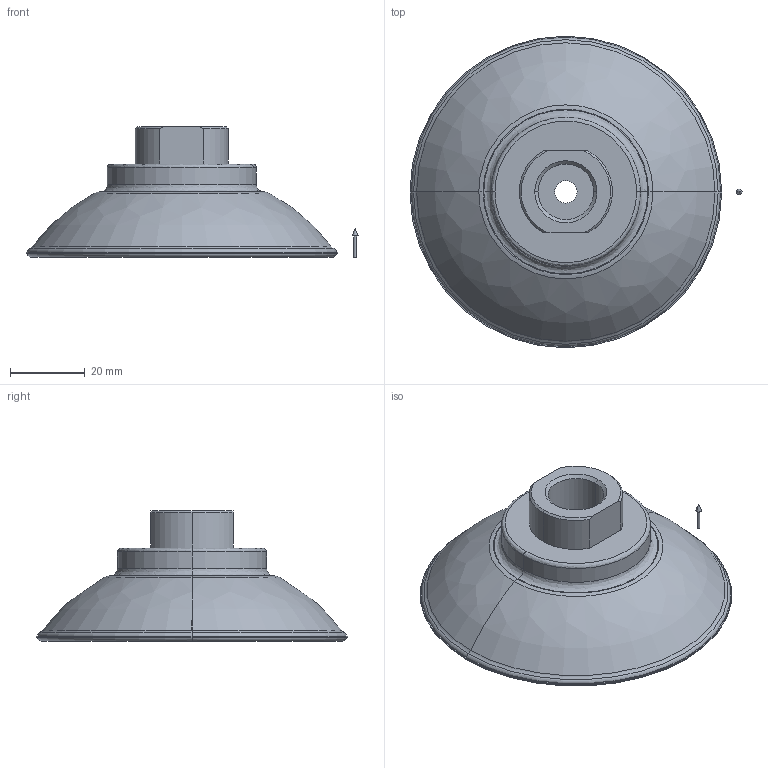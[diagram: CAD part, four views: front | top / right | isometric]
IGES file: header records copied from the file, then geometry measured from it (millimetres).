
Start section: 3D InterOp IGES (v. 2018 1.0.2), Spatial Corp. Copyright (c) 1999-2017.
Global section: file name: schmalz_10_01_01_10514_77opm51w8fkeuygtxogn4qwzc.igs; native system: Spatial Corp.; preprocessor: 3D InterOp ACIS/IGES; author: TraceParts; organization: TraceParts S.A.; date: 20181102.035033; units: millimetre
Bounding box: 89.06 x 83.6 x 35 mm (x, y, z)
Surface area: 17763 mm2 (no closed solid volume)
Topology: 0 solids, 0 shells, 119 faces, 486 edges, 484 vertices
Faces by surface type: revolution 92, bspline 16, extrusion 11
